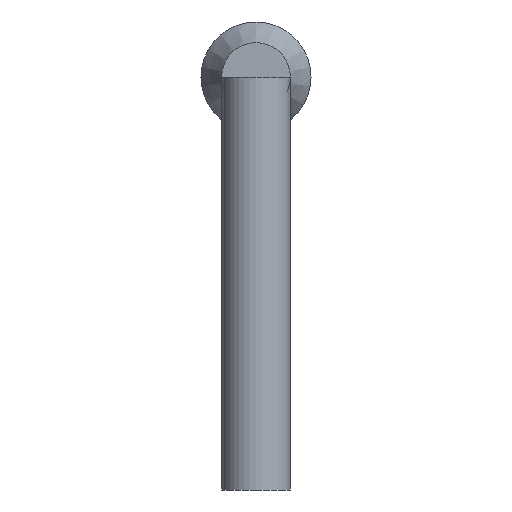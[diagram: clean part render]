
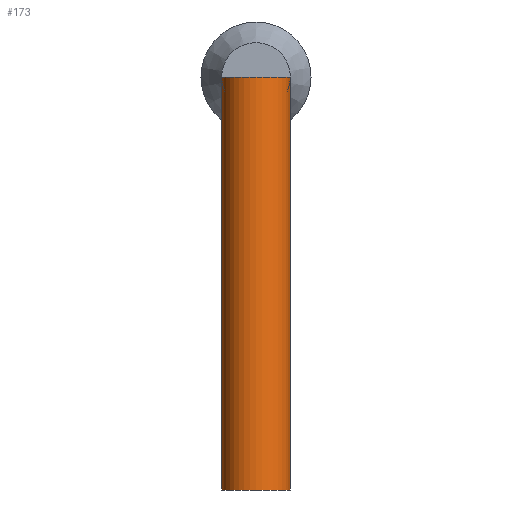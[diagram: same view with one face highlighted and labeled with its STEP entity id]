
A CAD part, left-side view. The second image highlights one B-rep face of the part: STEP entity #173.
In plain terms, the highlighted cylindrical face has radius 0.25 mm (diameter 0.5 mm), a full revolution.
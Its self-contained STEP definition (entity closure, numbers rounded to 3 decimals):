
#173 = ADVANCED_FACE('',(#174),#201,.T.);
#174 = FACE_BOUND('',#175,.T.);
#175 = EDGE_LOOP('',(#176,#185,#193,#200));
#176 = ORIENTED_EDGE('',*,*,#177,.F.);
#177 = EDGE_CURVE('',#178,#178,#180,.T.);
#178 = VERTEX_POINT('',#179);
#179 = CARTESIAN_POINT('',(-14.22,0.,-3.));
#180 = CIRCLE('',#181,0.25);
#181 = AXIS2_PLACEMENT_3D('',#182,#183,#184);
#182 = CARTESIAN_POINT('',(-13.97,0.,-3.));
#183 = DIRECTION('',(0.,0.,-1.));
#184 = DIRECTION('',(-1.,0.,-0.));
#185 = ORIENTED_EDGE('',*,*,#186,.F.);
#186 = EDGE_CURVE('',#187,#178,#189,.T.);
#187 = VERTEX_POINT('',#188);
#188 = CARTESIAN_POINT('',(-14.22,0.,0.));
#189 = LINE('',#190,#191);
#190 = CARTESIAN_POINT('',(-14.22,0.,0.));
#191 = VECTOR('',#192,1.);
#192 = DIRECTION('',(0.,0.,-1.));
#193 = ORIENTED_EDGE('',*,*,#194,.T.);
#194 = EDGE_CURVE('',#187,#187,#195,.T.);
#195 = CIRCLE('',#196,0.25);
#196 = AXIS2_PLACEMENT_3D('',#197,#198,#199);
#197 = CARTESIAN_POINT('',(-13.97,0.,0.));
#198 = DIRECTION('',(0.,0.,-1.));
#199 = DIRECTION('',(-1.,0.,-0.));
#200 = ORIENTED_EDGE('',*,*,#186,.T.);
#201 = CYLINDRICAL_SURFACE('',#202,0.25);
#202 = AXIS2_PLACEMENT_3D('',#203,#204,#205);
#203 = CARTESIAN_POINT('',(-13.97,0.,0.));
#204 = DIRECTION('',(0.,0.,-1.));
#205 = DIRECTION('',(-1.,0.,-0.));
